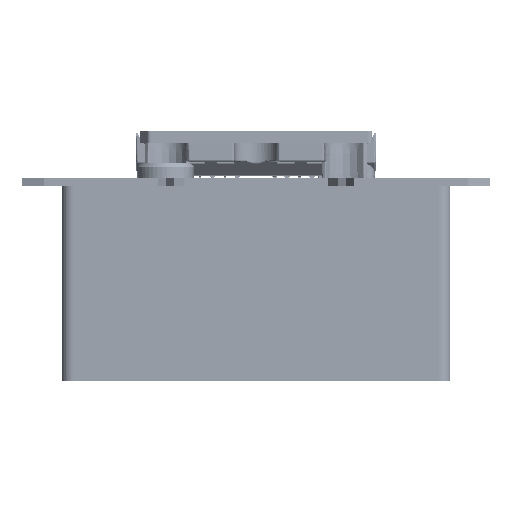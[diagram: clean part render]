
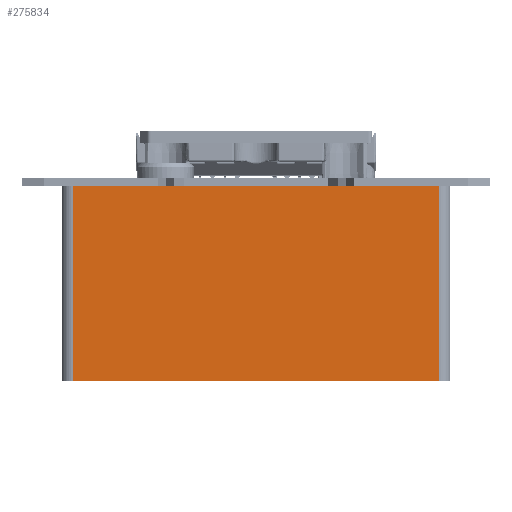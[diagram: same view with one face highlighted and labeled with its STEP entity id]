
A CAD part, left-side view. The second image highlights one B-rep face of the part: STEP entity #275834.
In plain terms, the highlighted planar face has unit normal (-1, 0, 0) as drawn and (1, 0, 0) by its records, which use the part's own axes.
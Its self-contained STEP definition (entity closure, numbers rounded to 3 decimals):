
#69971=ORIENTED_EDGE('',*,*,#99374,.F.);
#69972=ORIENTED_EDGE('',*,*,#99491,.T.);
#69973=ORIENTED_EDGE('',*,*,#99493,.T.);
#69974=ORIENTED_EDGE('',*,*,#99494,.T.);
#99374=EDGE_CURVE('',#118487,#118488,#139351,.T.);
#99491=EDGE_CURVE('',#118487,#118597,#139415,.F.);
#99493=EDGE_CURVE('',#118597,#118599,#139417,.T.);
#99494=EDGE_CURVE('',#118599,#118488,#139418,.T.);
#118487=VERTEX_POINT('',#415764);
#118488=VERTEX_POINT('',#415766);
#118597=VERTEX_POINT('',#416017);
#118599=VERTEX_POINT('',#416023);
#139351=LINE('',#415765,#160217);
#139415=LINE('',#416019,#160281);
#139417=LINE('',#416022,#160283);
#139418=LINE('',#416024,#160284);
#160217=VECTOR('',#348838,1000.);
#160281=VECTOR('',#349060,1000.);
#160283=VECTOR('',#349064,1000.);
#160284=VECTOR('',#349065,1000.);
#172102=EDGE_LOOP('',(#69971,#69972,#69973,#69974));
#183902=FACE_BOUND('',#172102,.T.);
#190936=PLANE('',#293372);
#275834=ADVANCED_FACE('',(#183902),#190936,.T.);
#293372=AXIS2_PLACEMENT_3D('',#416021,#349062,#349063);
#348838=DIRECTION('',(0.,-1.,0.));
#349060=DIRECTION('',(0.,0.,-1.));
#349062=DIRECTION('',(1.,0.,0.));
#349063=DIRECTION('',(0.,0.,-1.));
#349064=DIRECTION('',(0.,-1.,0.));
#349065=DIRECTION('',(0.,0.,-1.));
#415764=CARTESIAN_POINT('',(67.5,47.,0.));
#415765=CARTESIAN_POINT('',(67.5,50.,0.));
#415766=CARTESIAN_POINT('',(67.5,-47.,0.));
#416017=CARTESIAN_POINT('',(67.5,47.,50.));
#416019=CARTESIAN_POINT('',(67.5,47.,50.));
#416021=CARTESIAN_POINT('',(67.5,50.,50.));
#416022=CARTESIAN_POINT('',(67.5,50.,50.));
#416023=CARTESIAN_POINT('',(67.5,-47.,50.));
#416024=CARTESIAN_POINT('',(67.5,-47.,50.));
